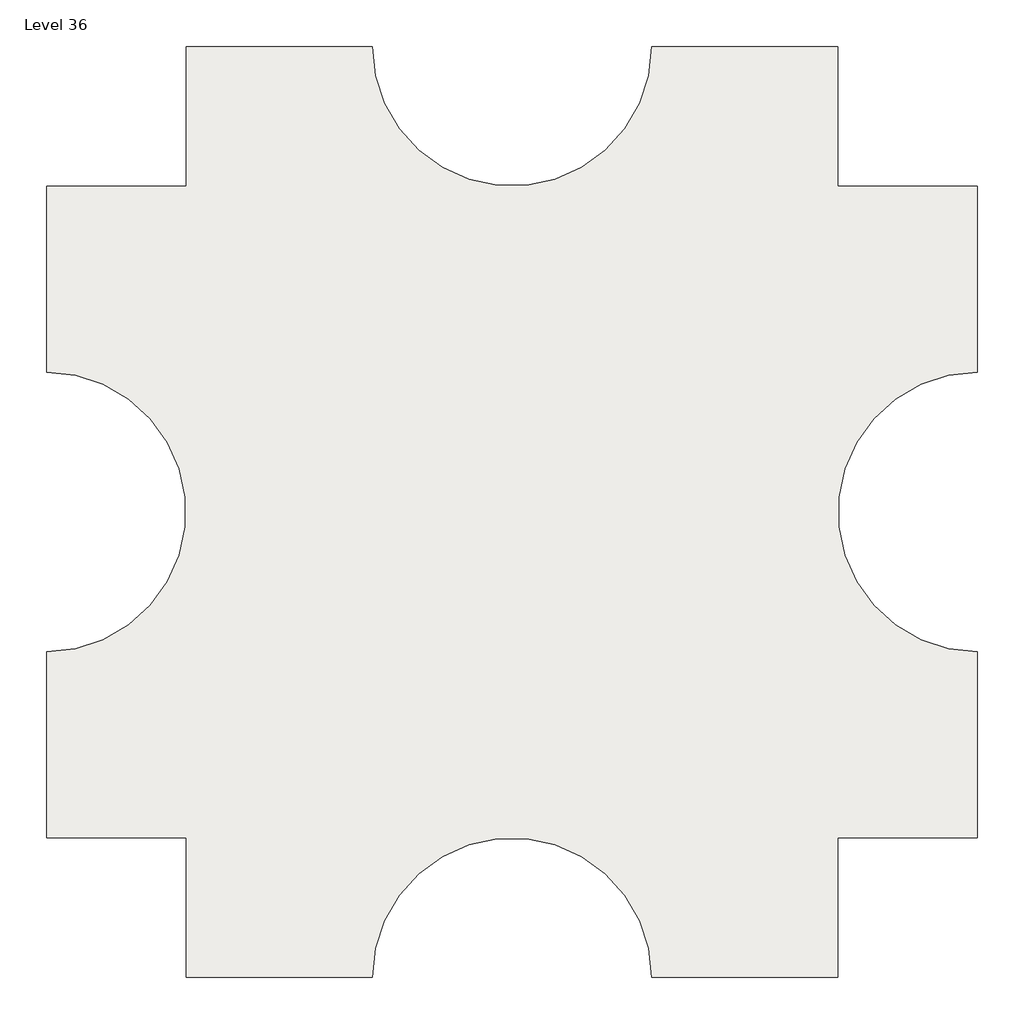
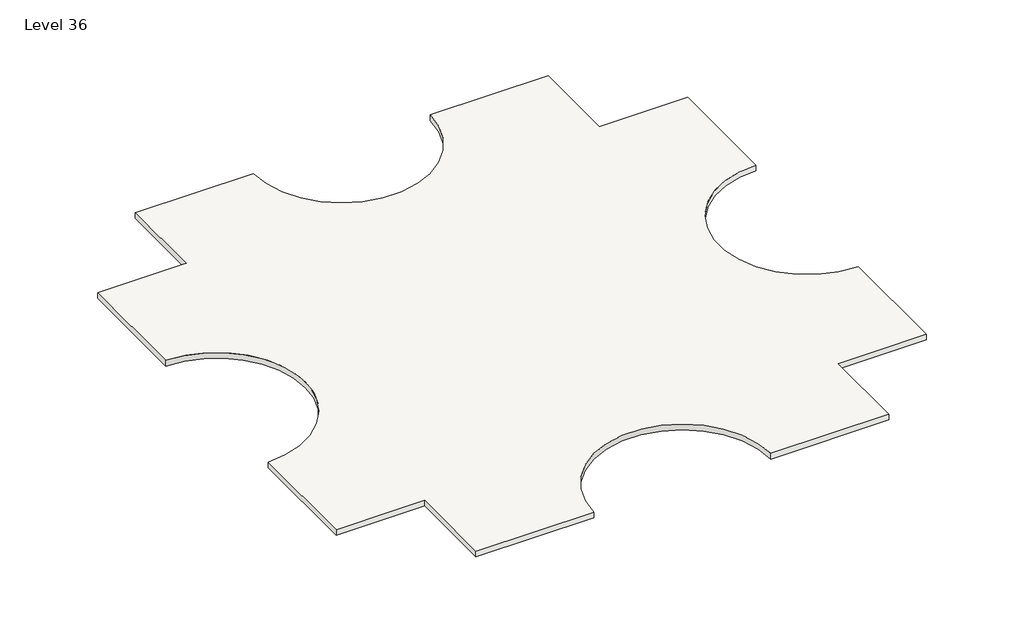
# One storey: 2 slabs.
"""IFC4 building model written with IfcOpenShell, lengths in millimetres."""

import ifcopenshell
import ifcopenshell.guid

model = None  # the IFC model being written
_history = None  # IfcOwnerHistory: only IFC2X3 demands one
_inside = {}  # id of a spatial element -> (the spatial element, [elements in it])
_under = {}  # id of a project, library or spatial element -> (it, [spatial elements below it])
_declared = {}  # id of a project -> (the project, [libraries it declares])
_typed = {}  # id of a type object -> (the type object, [elements of that type])
_made_of = {}  # id of a material, layer set ... -> (it, [elements and type objects made of it])


def new_model(schema):
    """Start an empty IFC model of exactly this schema.

    Asked for "IFC4X3", IfcOpenShell would pick the latest addendum, in which some entities
    have other attributes; the version numbers below select the first issue.
    IFC2X3 requires an IfcOwnerHistory on every rooted entity: one is made here for all.
    """
    global model, _history
    if schema == "IFC4X3":
        model = ifcopenshell.file(schema_version=(4, 3, 0, 0))
    else:
        model = ifcopenshell.file(schema=schema)
    _inside.clear()
    _under.clear()
    _declared.clear()
    _typed.clear()
    _made_of.clear()
    _history = None
    if model.schema == "IFC2X3":
        org = make("IfcOrganization", Name="unknown")
        user = make(
            "IfcPersonAndOrganization",
            ThePerson=make("IfcPerson", FamilyName="unknown"),
            TheOrganization=org,
        )
        app = make(
            "IfcApplication",
            ApplicationDeveloper=org,
            Version="unknown",
            ApplicationFullName="unknown",
            ApplicationIdentifier="unknown",
        )
        _history = make(
            "IfcOwnerHistory",
            OwningUser=user,
            OwningApplication=app,
            ChangeAction="ADDED",
            CreationDate=0,
        )
    return model


def make(cls, **values):
    """One entity of the class cls with the attributes given. An attribute that is None is left unset."""
    return model.create_entity(
        cls, **{name: value for name, value in values.items() if value is not None}
    )


def rooted(cls, **values):
    """An entity with a GlobalId (a new one), such as an element, a storey or a relation."""
    return make(cls, GlobalId=ifcopenshell.guid.new(), OwnerHistory=_history, **values)


def si_unit(unit_type, name, prefix=None):
    """IfcSIUnit, for example si_unit("LENGTHUNIT", "METRE", prefix="MILLI")."""
    return make("IfcSIUnit", UnitType=unit_type, Prefix=prefix, Name=name)


def assignment(units):
    """IfcUnitAssignment: the units of a project."""
    return None if units is None else make("IfcUnitAssignment", Units=units)


def point(xyz):
    """IfcCartesianPoint."""
    return None if xyz is None else make("IfcCartesianPoint", Coordinates=xyz)


def direction(xyz):
    """IfcDirection."""
    return None if xyz is None else make("IfcDirection", DirectionRatios=xyz)


def frame(location, z_axis=None, x_axis=None):
    """IfcAxis2Placement3D, a coordinate frame: its origin and axes. An axis left out is left unset."""
    return make(
        "IfcAxis2Placement3D",
        Location=point(location),
        Axis=direction(z_axis),
        RefDirection=direction(x_axis),
    )


def frame_2d(location, x_axis=None):
    """IfcAxis2Placement2D, a coordinate frame in the plane: its origin and x axis."""
    return make(
        "IfcAxis2Placement2D", Location=point(location), RefDirection=direction(x_axis)
    )


def origin():
    """The frame at (0, 0, 0) with its axes left unset."""
    return frame((0.0, 0.0, 0.0))


def place(relative_to, where):
    """IfcLocalPlacement: puts the frame where relative to a parent placement (None: the world)."""
    return make(
        "IfcLocalPlacement", PlacementRelTo=relative_to, RelativePlacement=where
    )


def context(
    kind, dimensions, precision=None, world=None, true_north=None, identifier=None
):
    """IfcGeometricRepresentationContext, for example the 3D "Model" context."""
    return make(
        "IfcGeometricRepresentationContext",
        ContextIdentifier=identifier,
        ContextType=kind,
        CoordinateSpaceDimension=dimensions,
        Precision=precision,
        WorldCoordinateSystem=world,
        TrueNorth=true_north,
    )


def project(units=None, contexts=None):
    """IfcProject with its units and contexts."""
    return rooted(
        "IfcProject",
        Name="project",
        RepresentationContexts=contexts,
        UnitsInContext=assignment(units),
    )


def spatial(cls, under=None, at=None, **own):
    """A site, building, storey or space (cls), placed at a placement, below another one or the project."""
    s = rooted(cls, ObjectPlacement=at, **own)
    if under is not None:
        _under.setdefault(under.id(), (under, []))[1].append(s)
    return s


def polyline(points):
    """IfcPolyline through the points."""
    return make("IfcPolyline", Points=[point(p) for p in points])


def circle_curve(where, radius):
    """IfcCircle in the frame where."""
    return make("IfcCircle", Position=where, Radius=radius)


def trimmed(basis, trim1, trim2, sense, master):
    """IfcTrimmedCurve: the piece of a basis curve between two trims."""
    return make(
        "IfcTrimmedCurve",
        BasisCurve=basis,
        Trim1=trim1,
        Trim2=trim2,
        SenseAgreement=sense,
        MasterRepresentation=master,
    )


def segment(curve, same_sense, transition):
    """IfcCompositeCurveSegment."""
    return make(
        "IfcCompositeCurveSegment",
        Transition=transition,
        SameSense=same_sense,
        ParentCurve=curve,
    )


def composite_curve(segments, self_intersect=None):
    """IfcCompositeCurve: segments joined end to end."""
    return make("IfcCompositeCurve", Segments=segments, SelfIntersect=self_intersect)


def outline(outer, holes=None, kind="AREA"):
    """IfcArbitraryClosedProfileDef: a profile drawn as a closed curve; with holes, ...WithVoids."""
    if holes is None:
        return make("IfcArbitraryClosedProfileDef", ProfileType=kind, OuterCurve=outer)
    return make(
        "IfcArbitraryProfileDefWithVoids",
        ProfileType=kind,
        OuterCurve=outer,
        InnerCurves=holes,
    )


def extrude(swept, where, along, depth):
    """IfcExtrudedAreaSolid: the profile swept, set in the frame where, extruded along a direction by depth."""
    return make(
        "IfcExtrudedAreaSolid",
        SweptArea=swept,
        Position=where,
        ExtrudedDirection=direction(along),
        Depth=depth,
    )


def shape(context_of_items, identifier, shape_type, items):
    """IfcShapeRepresentation: the items that make up one representation, for example the "Body"."""
    return make(
        "IfcShapeRepresentation",
        ContextOfItems=context_of_items,
        RepresentationIdentifier=identifier,
        RepresentationType=shape_type,
        Items=items,
    )


def made_of(thing, what):
    """Note that an element or type object is made of a material, layer set ...; save() writes the relation."""
    if what is not None:
        _made_of.setdefault(what.id(), (what, []))[1].append(thing)
    return thing


def element(
    cls,
    number,
    at=None,
    inside=None,
    cuts=None,
    type_object=None,
    material=None,
    context=None,
    identifier="Body",
    shape_type=None,
    held_by="IfcProductDefinitionShape",
    body=None,
    shapes=None,
    **own,
):
    """One element of the class cls, such as IfcWall. Its Tag is "e" and its number.

    at: its placement. inside: the storey or other place that contains it. cuts: it is an
    opening in that element (IfcRelVoidsElement). A single representation is given by context,
    identifier, shape_type and body (its items); several are given by shapes. held_by: the class
    of the entity that holds the representations. save() writes the other relations.
    """
    e = rooted(cls, Tag="e%d" % number, ObjectPlacement=at, **own)
    if body is not None:
        shapes = [shape(context, identifier, shape_type, body)]
    if shapes is not None:
        e.Representation = make(held_by, Representations=shapes)
    if inside is not None:
        _inside.setdefault(inside.id(), (inside, []))[1].append(e)
    if cuts is not None:
        rooted(
            "IfcRelVoidsElement", RelatingBuildingElement=cuts, RelatedOpeningElement=e
        )
    if type_object is not None:
        _typed.setdefault(type_object.id(), (type_object, []))[1].append(e)
    return made_of(e, material)


def aggregate(whole, parts):
    """IfcRelAggregates: a whole, such as a stair, and the parts it consists of."""
    return rooted("IfcRelAggregates", RelatingObject=whole, RelatedObjects=parts)


def save(model, path):
    """Write the relations noted so far, then the file.

    IfcRelAggregates (storeys below a building ...), IfcRelContainedInSpatialStructure (elements
    in a storey), IfcRelDefinesByType, IfcRelAssociatesMaterial and IfcRelDeclares: one each for
    every whole, place, type object, material and project.
    """
    for whole, parts in _under.values():
        aggregate(whole, parts)
    for where, things in _inside.values():
        rooted(
            "IfcRelContainedInSpatialStructure",
            RelatedElements=things,
            RelatingStructure=where,
        )
    for kind, things in _typed.values():
        rooted("IfcRelDefinesByType", RelatedObjects=things, RelatingType=kind)
    for what, things in _made_of.values():
        rooted("IfcRelAssociatesMaterial", RelatedObjects=things, RelatingMaterial=what)
    for by, libraries in _declared.values():
        rooted("IfcRelDeclares", RelatingContext=by, RelatedDefinitions=libraries)
    model.write(path)


model = new_model("IFC4")

# Units and contexts
model_context = context("Model", 3, world=origin())
ifc_project = project(units=[si_unit("LENGTHUNIT", "METRE", prefix="MILLI")], contexts=[model_context])

# Site, building, storey
site = spatial("IfcSite", under=ifc_project)
building = spatial("IfcBuilding", under=site)
storey = spatial("IfcBuildingStorey", under=building, Name="Level 36", Elevation=106680.0)

# Slabs
placement = place(None, origin())
element("IfcSlab", 1, ObjectType="Generic - 12\"", at=placement, inside=storey, context=model_context, shape_type="SweptSolid", body=[
    extrude(outline(composite_curve([segment(polyline([(-7150.3629456, 4479.6634547), (-7150.3629456, 9051.6634547), (-1054.3629456, 9051.6634547)]), True, "CONTINUOUS"), segment(trimmed(circle_curve(frame_2d((3517.6370544, 9051.6634547)), 4572.0), [point((-1054.3629456, 9051.6634547))], [point((8089.6370544, 9051.6634547))], True, "CARTESIAN"), True, "CONTINUOUS"), segment(polyline([(8089.6370544, 9051.6634547), (14185.6370544, 9051.6634547), (14185.6370544, 4479.6634547), (18757.6370544, 4479.6634547), (18757.6370544, -1616.3365453)]), True, "CONTINUOUS"), segment(trimmed(circle_curve(frame_2d((18757.6370544, -6188.3365453)), 4572.0), [point((18757.6370544, -1616.3365453))], [point((18757.6370544, -10760.3365453))], True, "CARTESIAN"), True, "CONTINUOUS"), segment(polyline([(18757.6370544, -10760.3365453), (18757.6370544, -16856.3365453), (14185.6370544, -16856.3365453), (14185.6370544, -21428.3365453), (8089.6370544, -21428.3365453)]), True, "CONTINUOUS"), segment(trimmed(circle_curve(frame_2d((3517.6370544, -21428.3365453)), 4572.0), [point((8089.6370544, -21428.3365453))], [point((-1054.3629456, -21428.3365453))], True, "CARTESIAN"), True, "CONTINUOUS"), segment(polyline([(-1054.3629456, -21428.3365453), (-7150.3629456, -21428.3365453), (-7150.3629456, -16856.3365453), (-11722.3629456, -16856.3365453), (-11722.3629456, -10760.3365453)]), True, "CONTINUOUS"), segment(trimmed(circle_curve(frame_2d((-11722.3629456, -6188.3365453)), 4572.0), [point((-11722.3629456, -10760.3365453))], [point((-11722.3629456, -1616.3365453))], True, "CARTESIAN"), True, "CONTINUOUS"), segment(polyline([(-11722.3629456, -1616.3365453), (-11722.3629456, 4479.6634547), (-7150.3629456, 4479.6634547)]), True, "CONTINUOUS")], self_intersect=False)), frame((0.0, 0.0, 106375.2), z_axis=(0.0, 0.0, 1.0), x_axis=(1.0, 0.0, 0.0)), (0.0, 0.0, 1.0), 304.8),
])
element("IfcSlab", 2, ObjectType="Generic - 12\"", at=placement, inside=storey, context=model_context, shape_type="SweptSolid", body=[
    extrude(outline(composite_curve([segment(polyline([(-7150.3629456, 4479.6634547), (-7150.3629456, 9051.6634547), (-1054.3629456, 9051.6634547)]), True, "CONTINUOUS"), segment(trimmed(circle_curve(frame_2d((3517.6370544, 9051.6634547)), 4572.0), [point((-1054.3629456, 9051.6634547))], [point((8089.6370544, 9051.6634547))], True, "CARTESIAN"), True, "CONTINUOUS"), segment(polyline([(8089.6370544, 9051.6634547), (14185.6370544, 9051.6634547), (14185.6370544, 4479.6634547), (18757.6370544, 4479.6634547), (18757.6370544, -1616.3365453)]), True, "CONTINUOUS"), segment(trimmed(circle_curve(frame_2d((18757.6370544, -6188.3365453)), 4572.0), [point((18757.6370544, -1616.3365453))], [point((18757.6370544, -10760.3365453))], True, "CARTESIAN"), True, "CONTINUOUS"), segment(polyline([(18757.6370544, -10760.3365453), (18757.6370544, -16856.3365453), (14185.6370544, -16856.3365453), (14185.6370544, -21428.3365453), (8089.6370544, -21428.3365453)]), True, "CONTINUOUS"), segment(trimmed(circle_curve(frame_2d((3517.6370544, -21428.3365453)), 4572.0), [point((8089.6370544, -21428.3365453))], [point((-1054.3629456, -21428.3365453))], True, "CARTESIAN"), True, "CONTINUOUS"), segment(polyline([(-1054.3629456, -21428.3365453), (-7150.3629456, -21428.3365453), (-7150.3629456, -16856.3365453), (-11722.3629456, -16856.3365453), (-11722.3629456, -10760.3365453)]), True, "CONTINUOUS"), segment(trimmed(circle_curve(frame_2d((-11722.3629456, -6188.3365453)), 4572.0), [point((-11722.3629456, -10760.3365453))], [point((-11722.3629456, -1616.3365453))], True, "CARTESIAN"), True, "CONTINUOUS"), segment(polyline([(-11722.3629456, -1616.3365453), (-11722.3629456, 4479.6634547), (-7150.3629456, 4479.6634547)]), True, "CONTINUOUS")], self_intersect=False)), frame((0.0, 0.0, 106375.2), z_axis=(0.0, 0.0, 1.0), x_axis=(1.0, 0.0, 0.0)), (0.0, 0.0, 1.0), 304.8),
])

save(model, "model.ifc")
